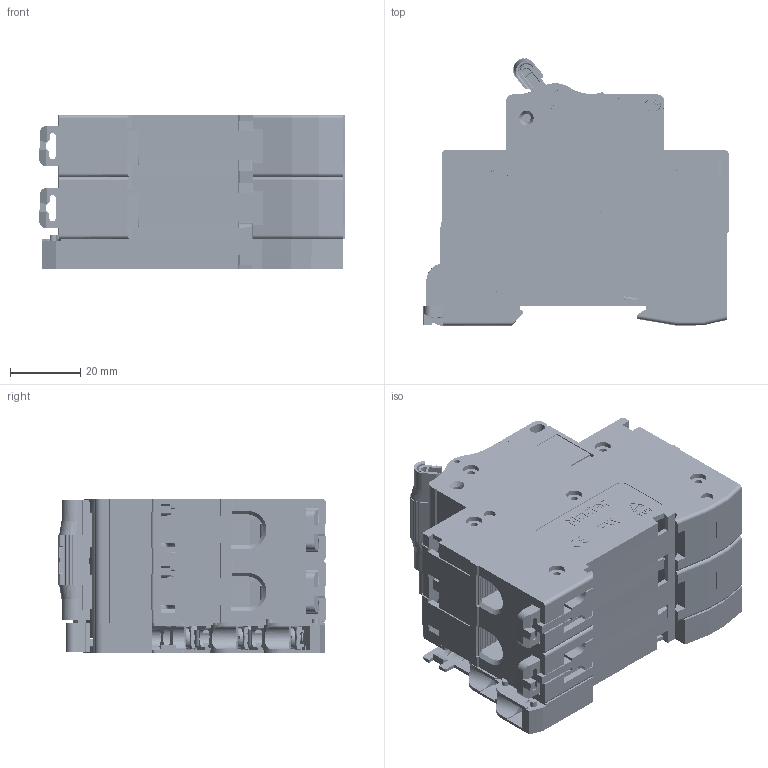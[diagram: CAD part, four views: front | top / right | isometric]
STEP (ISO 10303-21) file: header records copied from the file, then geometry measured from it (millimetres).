
FILE_DESCRIPTION (( 'STEP AP203' ), '1' );
FILE_NAME ('NDB2-63 2P+OF2.STEP', '2021-07-08T05:44:25', ( '' ), ( '' ), 'SwSTEP 2.0', 'SolidWorks 2018', '' );
FILE_SCHEMA (( 'CONFIG_CONTROL_DESIGN' ));
Length unit declared in the file: millimetre
Products named in the file (55): 5LD.740.106.STEP.STEP; 5LD.520.139.12.STEP.STEP; 5LD.574.103.STEP.STEP; 8LD.282.164.1~17.STEP.STEP; 8LD.206.173.STEP.STEP; 8LD.585.142.STEP.STEP; 8LD.907.127.STEP.STEP; 8LD.615.120.STEP.STEP; 8LD.024.137.STEP.STEP; 8LD.516.163.STEP.STEP; 8LD.612.138.STEP.STEP; 8LD.885.106.STEP.STEP; 5LD.421.104.1~13.STEP.STEP; OF2 耀倰芞; 8LD.288.142.STEP.STEP; 8LD.282.141.STEP.STEP; 8LD.516.135.STEP.STEP; 5LD.615.128.STEP.STEP; 5LD.550.1187.STEP.STEP; 8LD.235.112.STEP.STEP; 8LD.239.1018.STEP.STEP; 2LD.250.104.STEP.STEP; 8LD.288.143.STEP.STEP; 8LD.907.115.STEP.STEP; 8LD.253.1228.STEP; 8LD.421.100.STEP.STEP; 8LD.750.152.STEP.STEP; 8LD.595.106.STEP.STEP; 8LD.039.100.STEP.STEP; 5LD.516.103.STEP.STEP; 8LD.270.115.STEP.STEP; NDB2-63 2P.STEP; 8LD.234.103.STEP.STEP; 8LD.321.101.STEP.STEP; 8LD.315.141.STEP.STEP; 5LD.850.120.STEP.STEP; 8LD.257.111.STEP.STEP; 8LD.315.140.STEP.STEP; 8LD.615.119.STEP.STEP; 8LD.550.1163.STEP.STEP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
Assembly tree (73 placements, depth 7):
  NDB2-63 2P+OF2
    NDB2-63 2P.STEP
      2LD.250.104.STEP.STEP  x2
        5LD.615.128.STEP.STEP
          5LD.520.139.12.STEP.STEP
            5LD.550.1187.STEP.STEP
              8LD.550.1182.STEP.STEP
              8LD.551.137.STEP.STEP
            8LD.612.138.STEP.STEP
            8LD.732.108.STEP.STEP
            8LD.615.119.STEP.STEP
            8LD.522.117.12.STEP.STEP
            8LD.516.164.STEP.STEP
          8LD.235.112.STEP.STEP
          8LD.615.120.STEP.STEP
          8LD.282.164.1~17.STEP.STEP
        5LD.740.106.STEP.STEP
          8LD.742.182.STEP.STEP  x12
          8LD.750.152.STEP.STEP  x4
        5LD.850.120.STEP.STEP
          8LD.948.100.STEP.STEP
          8LD.907.127.STEP.STEP
        5LD.574.103.STEP.STEP
          8LD.516.135.STEP.STEP
          8LD.907.115.STEP.STEP
        5LD.550.165.STEP.STEP
          5LD.421.104.1~13.STEP.STEP
            5LD.516.103.STEP.STEP
              8LD.516.163.STEP.STEP
              8LD.585.142.STEP.STEP
            8LD.595.106.STEP.STEP
            8LD.421.100.STEP.STEP
            8LD.503.105.STEP.STEP
            8LD.550.1163.STEP.STEP
            8LD.239.1018.STEP.STEP
          8LD.039.100.STEP.STEP
          8LD.206.173.STEP.STEP
          8LD.288.142.STEP.STEP
          8LD.270.115.STEP.STEP
          8LD.885.106.STEP.STEP
          8LD.282.141.STEP.STEP
        8LD.024.137.STEP.STEP
        8LD.315.140.STEP.STEP
        8LD.253.129.STEP.STEP
        8LD.321.101.STEP.STEP
        8LD.233.125.STEP.STEP
        8LD.257.111.STEP.STEP
        8LD.234.103.STEP.STEP
        8LD.742.206.STEP.STEP
        8LD.156.146.STEP.STEP
        8LD.143.115.STEP.STEP
        8LD.288.143.STEP.STEP
        8LD.315.141.STEP.STEP
      8LD.253.1228.STEP
    OF2 耀倰芞
Bounding box: 86.72 x 75.92 x 43.8 mm (x, y, z)
Volume: 102751.5 mm3; surface area: 176165.3 mm2
Topology: 168 solids, 171 shells, 14238 faces, 39522 edges, 25901 vertices
Faces by surface type: plane 8859, cylinder 3868, cone 891, bspline 466, torus 131, sphere 23
Entity records: 289012 total; most frequent: CARTESIAN_POINT 99416, ORIENTED_EDGE 40208, DIRECTION 35728, EDGE_CURVE 20104, VECTOR 13290, LINE 13290, VERTEX_POINT 13151, AXIS2_PLACEMENT_3D 11219
